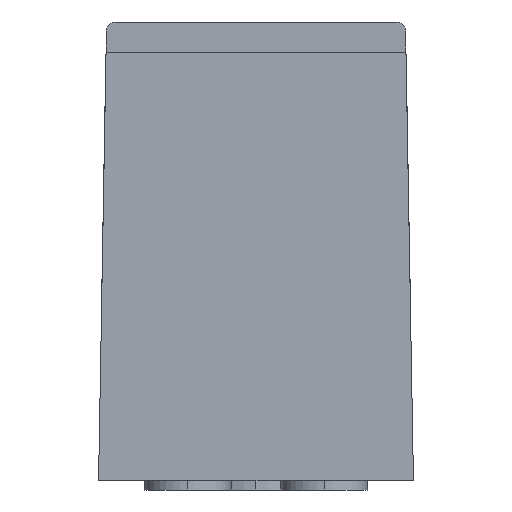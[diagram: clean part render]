
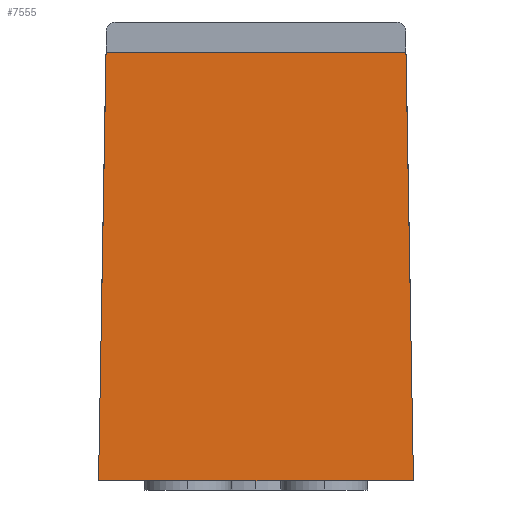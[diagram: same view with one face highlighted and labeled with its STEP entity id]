
A CAD part, left-side view. The second image highlights one B-rep face of the part: STEP entity #7555.
In plain terms, the highlighted planar face has unit normal (-1, 0, 0.018) as drawn and (1, 0, 0.017) by its records, which use the part's own axes.
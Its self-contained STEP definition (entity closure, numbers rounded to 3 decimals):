
#617=FACE_OUTER_BOUND('',#1073,.T.);
#1073=EDGE_LOOP('',(#6228,#6229,#6230,#6231));
#1918=LINE('',#11707,#2836);
#1919=LINE('',#11709,#2837);
#1920=LINE('',#11711,#2838);
#1921=LINE('',#11712,#2839);
#2836=VECTOR('',#9529,304.8);
#2837=VECTOR('',#9530,304.8);
#2838=VECTOR('',#9531,304.8);
#2839=VECTOR('',#9532,304.8);
#3548=VERTEX_POINT('',#11705);
#3549=VERTEX_POINT('',#11706);
#3550=VERTEX_POINT('',#11708);
#3551=VERTEX_POINT('',#11710);
#4492=EDGE_CURVE('',#3548,#3549,#1918,.T.);
#4493=EDGE_CURVE('',#3550,#3548,#1919,.T.);
#4494=EDGE_CURVE('',#3551,#3550,#1920,.T.);
#4495=EDGE_CURVE('',#3549,#3551,#1921,.T.);
#6228=ORIENTED_EDGE('',*,*,#4492,.F.);
#6229=ORIENTED_EDGE('',*,*,#4493,.F.);
#6230=ORIENTED_EDGE('',*,*,#4494,.F.);
#6231=ORIENTED_EDGE('',*,*,#4495,.F.);
#7213=PLANE('',#8009);
#7555=ADVANCED_FACE('',(#617),#7213,.T.);
#8009=AXIS2_PLACEMENT_3D('',#11704,#9527,#9528);
#9527=DIRECTION('center_axis',(1.,0.,0.017));
#9528=DIRECTION('ref_axis',(0.,1.,0.));
#9529=DIRECTION('',(0.,1.,0.));
#9530=DIRECTION('',(-0.017,0.017,1.));
#9531=DIRECTION('',(0.,-1.,0.));
#9532=DIRECTION('',(0.017,0.017,-1.));
#11704=CARTESIAN_POINT('Origin',(110.9,0.,1.5));
#11705=CARTESIAN_POINT('',(109.696,-24.196,70.5));
#11706=CARTESIAN_POINT('',(109.696,24.196,70.5));
#11707=CARTESIAN_POINT('',(109.696,-24.196,70.5));
#11708=CARTESIAN_POINT('',(110.9,-25.4,1.5));
#11709=CARTESIAN_POINT('',(110.9,-25.4,1.5));
#11710=CARTESIAN_POINT('',(110.9,25.4,1.5));
#11711=CARTESIAN_POINT('',(110.9,25.4,1.5));
#11712=CARTESIAN_POINT('',(109.696,24.196,70.5));
